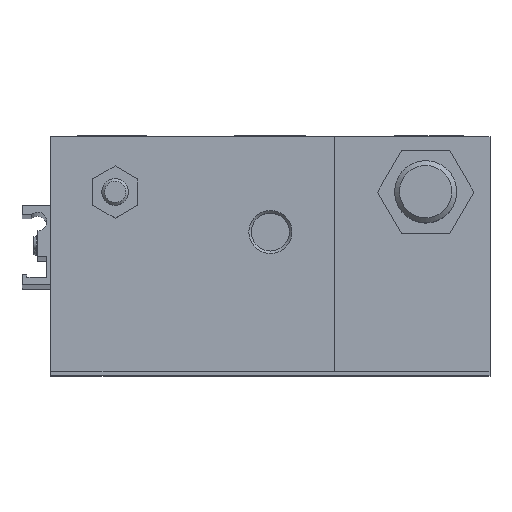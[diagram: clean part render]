
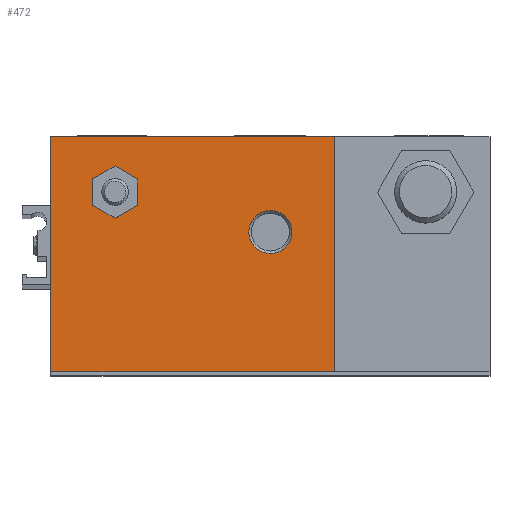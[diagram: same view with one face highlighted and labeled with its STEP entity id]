
A CAD part, top view. The second image highlights one B-rep face of the part: STEP entity #472.
In plain terms, the highlighted planar face has unit normal (0, 0, 1) as drawn and (0, 0, -1) by its records, which use the part's own axes.
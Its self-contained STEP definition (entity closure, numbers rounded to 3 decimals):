
#472 = ADVANCED_FACE( '', ( #1072, #1073, #1074 ), #1075, .F. );
#1072 = FACE_BOUND( '', #1820, .T. );
#1073 = FACE_BOUND( '', #1821, .T. );
#1074 = FACE_OUTER_BOUND( '', #1822, .T. );
#1075 = PLANE( '', #1823 );
#1820 = EDGE_LOOP( '', ( #2893, #2894, #2895, #2896, #2897, #2898 ) );
#1821 = EDGE_LOOP( '', ( #2899 ) );
#1822 = EDGE_LOOP( '', ( #2900, #2901, #2902, #2903 ) );
#1823 = AXIS2_PLACEMENT_3D( '', #2904, #2905, #2906 );
#2893 = ORIENTED_EDGE( '', *, *, #3988, .T. );
#2894 = ORIENTED_EDGE( '', *, *, #3989, .T. );
#2895 = ORIENTED_EDGE( '', *, *, #3990, .T. );
#2896 = ORIENTED_EDGE( '', *, *, #3947, .T. );
#2897 = ORIENTED_EDGE( '', *, *, #3737, .T. );
#2898 = ORIENTED_EDGE( '', *, *, #3751, .T. );
#2899 = ORIENTED_EDGE( '', *, *, #3991, .T. );
#2900 = ORIENTED_EDGE( '', *, *, #3678, .T. );
#2901 = ORIENTED_EDGE( '', *, *, #3955, .F. );
#2902 = ORIENTED_EDGE( '', *, *, #3842, .F. );
#2903 = ORIENTED_EDGE( '', *, *, #3690, .T. );
#2904 = CARTESIAN_POINT( '', ( 14.5, 53., -544.5 ) );
#2905 = DIRECTION( '', ( 0., 0., 1. ) );
#2906 = DIRECTION( '', ( 1., 0., 0. ) );
#3678 = EDGE_CURVE( '', #4228, #4229, #4230, .T. );
#3690 = EDGE_CURVE( '', #4249, #4228, #4250, .T. );
#3737 = EDGE_CURVE( '', #4326, #4327, #4328, .T. );
#3751 = EDGE_CURVE( '', #4327, #4349, #4350, .T. );
#3842 = EDGE_CURVE( '', #4249, #4499, #4500, .T. );
#3947 = EDGE_CURVE( '', #4667, #4326, #4668, .T. );
#3955 = EDGE_CURVE( '', #4499, #4229, #4679, .T. );
#3988 = EDGE_CURVE( '', #4349, #4727, #4728, .T. );
#3989 = EDGE_CURVE( '', #4727, #4729, #4730, .T. );
#3990 = EDGE_CURVE( '', #4729, #4667, #4731, .T. );
#3991 = EDGE_CURVE( '', #4732, #4732, #4733, .T. );
#4228 = VERTEX_POINT( '', #5034 );
#4229 = VERTEX_POINT( '', #5035 );
#4230 = LINE( '', #5036, #5037 );
#4249 = VERTEX_POINT( '', #5061 );
#4250 = LINE( '', #5062, #5063 );
#4326 = VERTEX_POINT( '', #5150 );
#4327 = VERTEX_POINT( '', #5151 );
#4328 = LINE( '', #5152, #5153 );
#4349 = VERTEX_POINT( '', #5180 );
#4350 = LINE( '', #5181, #5182 );
#4499 = VERTEX_POINT( '', #5371 );
#4500 = LINE( '', #5372, #5373 );
#4667 = VERTEX_POINT( '', #5579 );
#4668 = LINE( '', #5580, #5581 );
#4679 = LINE( '', #5598, #5599 );
#4727 = VERTEX_POINT( '', #5658 );
#4728 = LINE( '', #5659, #5660 );
#4729 = VERTEX_POINT( '', #5661 );
#4730 = LINE( '', #5662, #5663 );
#4731 = LINE( '', #5664, #5665 );
#4732 = VERTEX_POINT( '', #5666 );
#4733 = CIRCLE( '', #5667, 4.864 );
#5034 = CARTESIAN_POINT( '', ( 14.5, 0., -544.5 ) );
#5035 = CARTESIAN_POINT( '', ( -49.5, 0., -544.5 ) );
#5036 = CARTESIAN_POINT( '', ( 14.5, 0., -544.5 ) );
#5037 = VECTOR( '', #5990, 1000. );
#5061 = CARTESIAN_POINT( '', ( 14.5, 53., -544.5 ) );
#5062 = CARTESIAN_POINT( '', ( 14.5, 53., -544.5 ) );
#5063 = VECTOR( '', #6005, 1000. );
#5150 = CARTESIAN_POINT( '', ( -29.9, 9.556, -544.5 ) );
#5151 = CARTESIAN_POINT( '', ( -29.9, 15.444, -544.5 ) );
#5152 = CARTESIAN_POINT( '', ( -29.9, 53., -544.5 ) );
#5153 = VECTOR( '', #6077, 1000. );
#5180 = CARTESIAN_POINT( '', ( -35., 18.389, -544.5 ) );
#5181 = CARTESIAN_POINT( '', ( -12.862, 5.608, -544.5 ) );
#5182 = VECTOR( '', #6093, 1000. );
#5371 = CARTESIAN_POINT( '', ( -49.5, 53., -544.5 ) );
#5372 = CARTESIAN_POINT( '', ( 14.5, 53., -544.5 ) );
#5373 = VECTOR( '', #6209, 1000. );
#5579 = CARTESIAN_POINT( '', ( -35., 6.611, -544.5 ) );
#5580 = CARTESIAN_POINT( '', ( 22.212, 39.642, -544.5 ) );
#5581 = VECTOR( '', #6351, 1000. );
#5598 = CARTESIAN_POINT( '', ( -49.5, 53., -544.5 ) );
#5599 = VECTOR( '', #6358, 1000. );
#5658 = CARTESIAN_POINT( '', ( -40.1, 15.444, -544.5 ) );
#5659 = CARTESIAN_POINT( '', ( 17.112, 48.476, -544.5 ) );
#5660 = VECTOR( '', #6397, 1000. );
#5661 = CARTESIAN_POINT( '', ( -40.1, 9.556, -544.5 ) );
#5662 = CARTESIAN_POINT( '', ( -40.1, 53., -544.5 ) );
#5663 = VECTOR( '', #6398, 1000. );
#5664 = CARTESIAN_POINT( '', ( -17.962, -3.226, -544.5 ) );
#5665 = VECTOR( '', #6399, 1000. );
#5666 = CARTESIAN_POINT( '', ( 4.864, 21.5, -544.5 ) );
#5667 = AXIS2_PLACEMENT_3D( '', #6400, #6401, #6402 );
#5990 = DIRECTION( '', ( -1., 0., 0. ) );
#6005 = DIRECTION( '', ( 0., -1., 0. ) );
#6077 = DIRECTION( '', ( 0., 1., 0. ) );
#6093 = DIRECTION( '', ( -0.866, 0.5, 0. ) );
#6209 = DIRECTION( '', ( -1., 0., 0. ) );
#6351 = DIRECTION( '', ( 0.866, 0.5, 0. ) );
#6358 = DIRECTION( '', ( 0., -1., 0. ) );
#6397 = DIRECTION( '', ( -0.866, -0.5, 0. ) );
#6398 = DIRECTION( '', ( 0., -1., 0. ) );
#6399 = DIRECTION( '', ( 0.866, -0.5, 0. ) );
#6400 = CARTESIAN_POINT( '', ( 0., 21.5, -544.5 ) );
#6401 = DIRECTION( '', ( 0., 0., 1. ) );
#6402 = DIRECTION( '', ( 1., 0., 0. ) );
